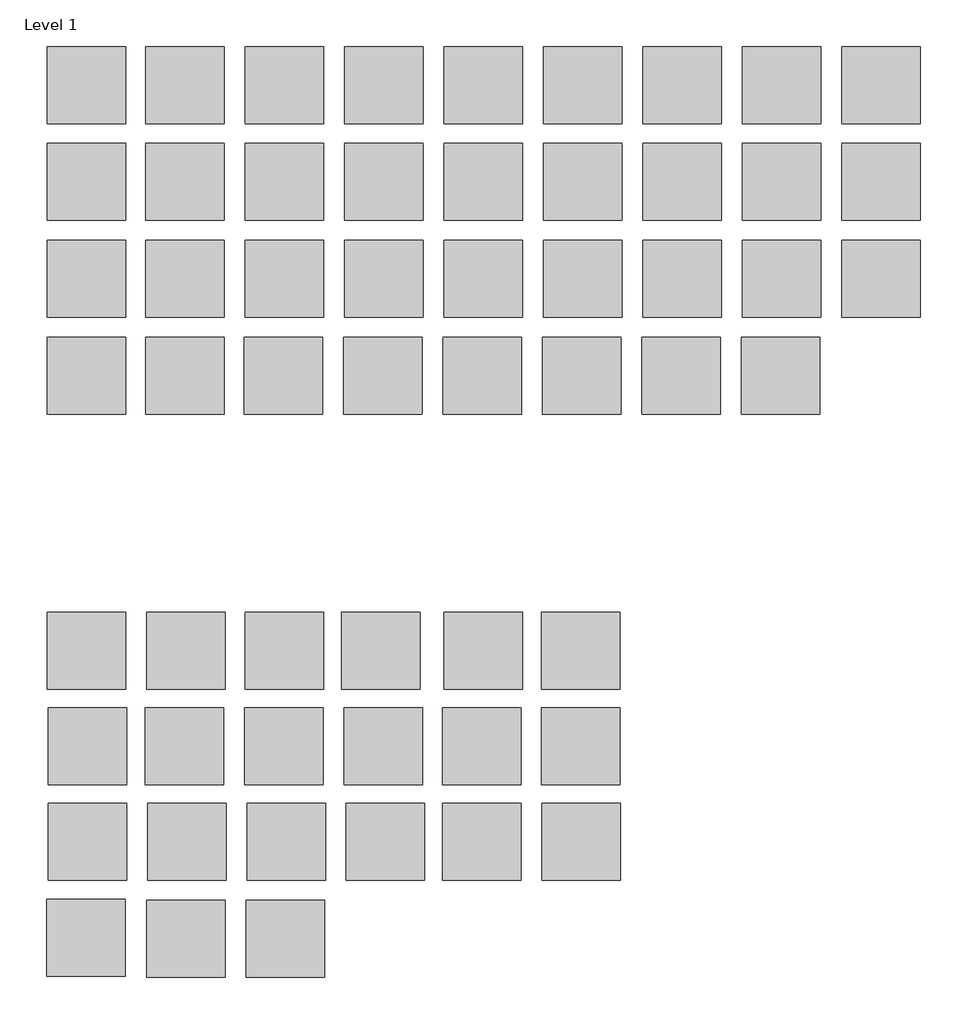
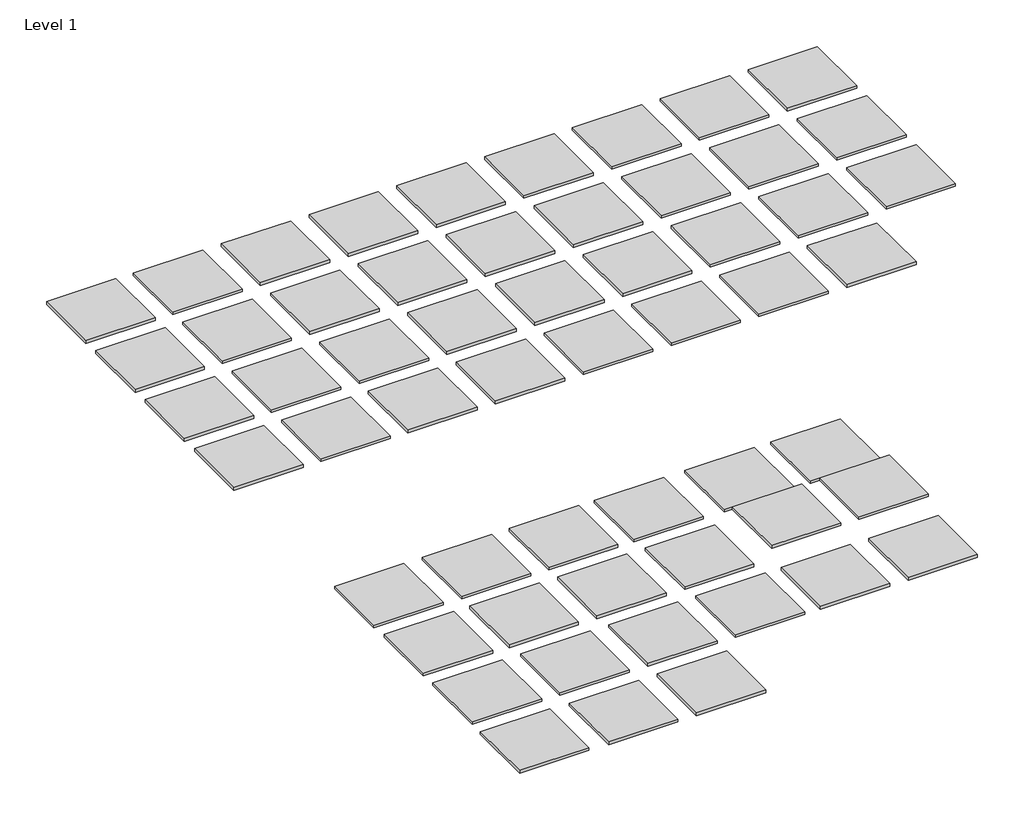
# One storey: 56 proxies.
"""IFC4 building model written with IfcOpenShell, lengths in millimetres."""

from ifc_helpers import new_model, si_unit, origin, place, context, project, spatial, transform, mapped, element, save
from components import materialsample_type_1_bd7977d1

model = new_model("IFC4")

# Units and contexts
model_context = context("Model", 3, world=origin())
ifc_project = project(units=[si_unit("LENGTHUNIT", "METRE", prefix="MILLI")], contexts=[model_context])

# Site, building, storey
site = spatial("IfcSite", under=ifc_project)
building = spatial("IfcBuilding", under=site)
storey = spatial("IfcBuildingStorey", under=building, Name="Level 1", Elevation=0.0)

# Proxies
placement = place(None, origin())
materialsample_type_1_shape = materialsample_type_1_bd7977d1(model_context)
element("IfcBuildingElementProxy", 1, Name="MaterialSample : Type 1", ObjectType="MaterialSample : Type 1", at=placement, inside=storey, context=model_context, shape_type="MappedRepresentation", body=[
    mapped(materialsample_type_1_shape, transform((0.0, -21031.2, 0.0), x_axis=(1.0, 0.0, 0.0), y_axis=(0.0, 1.0, 0.0), z_axis=(0.0, 0.0, 1.0))),
])
element("IfcBuildingElementProxy", 2, Name="MaterialSample : Type 1", ObjectType="MaterialSample : Type 1", at=placement, inside=storey, context=model_context, shape_type="MappedRepresentation", body=[
    mapped(materialsample_type_1_shape, transform((754.3025665, -21031.2, 0.0), x_axis=(1.0, 0.0, 0.0), y_axis=(0.0, 1.0, 0.0), z_axis=(0.0, 0.0, 1.0))),
])
element("IfcBuildingElementProxy", 3, Name="MaterialSample : Type 1", ObjectType="MaterialSample : Type 1", at=placement, inside=storey, context=model_context, shape_type="MappedRepresentation", body=[
    mapped(materialsample_type_1_shape, transform((1516.3025665, -21031.2, 0.0), x_axis=(1.0, 0.0, 0.0), y_axis=(0.0, 1.0, 0.0), z_axis=(0.0, 0.0, 1.0))),
])
element("IfcBuildingElementProxy", 4, Name="MaterialSample : Type 1", ObjectType="MaterialSample : Type 1", at=placement, inside=storey, context=model_context, shape_type="MappedRepresentation", body=[
    mapped(materialsample_type_1_shape, transform((2278.3025665, -21031.2, 0.0), x_axis=(1.0, 0.0, 0.0), y_axis=(0.0, 1.0, 0.0), z_axis=(0.0, 0.0, 1.0))),
])
element("IfcBuildingElementProxy", 5, Name="MaterialSample : Type 1", ObjectType="MaterialSample : Type 1", at=placement, inside=storey, context=model_context, shape_type="MappedRepresentation", body=[
    mapped(materialsample_type_1_shape, transform((3040.3025665, -21031.2, 0.0), x_axis=(1.0, 0.0, 0.0), y_axis=(0.0, 1.0, 0.0), z_axis=(0.0, 0.0, 1.0))),
])
element("IfcBuildingElementProxy", 6, Name="MaterialSample : Type 1", ObjectType="MaterialSample : Type 1", at=placement, inside=storey, context=model_context, shape_type="MappedRepresentation", body=[
    mapped(materialsample_type_1_shape, transform((3802.3025665, -21031.2, 0.0), x_axis=(1.0, 0.0, 0.0), y_axis=(0.0, 1.0, 0.0), z_axis=(0.0, 0.0, 1.0))),
])
element("IfcBuildingElementProxy", 7, Name="MaterialSample : Type 1", ObjectType="MaterialSample : Type 1", at=placement, inside=storey, context=model_context, shape_type="MappedRepresentation", body=[
    mapped(materialsample_type_1_shape, transform((4564.3025665, -21031.2, 0.0), x_axis=(1.0, 0.0, 0.0), y_axis=(0.0, 1.0, 0.0), z_axis=(0.0, 0.0, 1.0))),
])
element("IfcBuildingElementProxy", 8, Name="MaterialSample : Type 1", ObjectType="MaterialSample : Type 1", at=placement, inside=storey, context=model_context, shape_type="MappedRepresentation", body=[
    mapped(materialsample_type_1_shape, transform((5326.3025665, -21031.2, 0.0), x_axis=(1.0, 0.0, 0.0), y_axis=(0.0, 1.0, 0.0), z_axis=(0.0, 0.0, 1.0))),
])
element("IfcBuildingElementProxy", 9, Name="MaterialSample : Type 1", ObjectType="MaterialSample : Type 1", at=placement, inside=storey, context=model_context, shape_type="MappedRepresentation", body=[
    mapped(materialsample_type_1_shape, transform((6088.3025665, -21031.2, 0.0), x_axis=(1.0, 0.0, 0.0), y_axis=(0.0, 1.0, 0.0), z_axis=(0.0, 0.0, 1.0))),
])
element("IfcBuildingElementProxy", 10, Name="MaterialSample : Type 1", ObjectType="MaterialSample : Type 1", at=placement, inside=storey, context=model_context, shape_type="MappedRepresentation", body=[
    mapped(materialsample_type_1_shape, transform((0.0, -21773.1430797, 0.0), x_axis=(1.0, 0.0, 0.0), y_axis=(0.0, 1.0, 0.0), z_axis=(0.0, 0.0, 1.0))),
])
element("IfcBuildingElementProxy", 11, Name="MaterialSample : Type 1", ObjectType="MaterialSample : Type 1", at=placement, inside=storey, context=model_context, shape_type="MappedRepresentation", body=[
    mapped(materialsample_type_1_shape, transform((754.3025665, -21773.1430797, 0.0), x_axis=(1.0, 0.0, 0.0), y_axis=(0.0, 1.0, 0.0), z_axis=(0.0, 0.0, 1.0))),
])
element("IfcBuildingElementProxy", 12, Name="MaterialSample : Type 1", ObjectType="MaterialSample : Type 1", at=placement, inside=storey, context=model_context, shape_type="MappedRepresentation", body=[
    mapped(materialsample_type_1_shape, transform((1516.3025665, -21773.1430797, 0.0), x_axis=(1.0, 0.0, 0.0), y_axis=(0.0, 1.0, 0.0), z_axis=(0.0, 0.0, 1.0))),
])
element("IfcBuildingElementProxy", 13, Name="MaterialSample : Type 1", ObjectType="MaterialSample : Type 1", at=placement, inside=storey, context=model_context, shape_type="MappedRepresentation", body=[
    mapped(materialsample_type_1_shape, transform((2278.3025665, -21773.1430797, 0.0), x_axis=(1.0, 0.0, 0.0), y_axis=(0.0, 1.0, 0.0), z_axis=(0.0, 0.0, 1.0))),
])
element("IfcBuildingElementProxy", 14, Name="MaterialSample : Type 1", ObjectType="MaterialSample : Type 1", at=placement, inside=storey, context=model_context, shape_type="MappedRepresentation", body=[
    mapped(materialsample_type_1_shape, transform((3040.3025665, -21773.1430797, 0.0), x_axis=(1.0, 0.0, 0.0), y_axis=(0.0, 1.0, 0.0), z_axis=(0.0, 0.0, 1.0))),
])
element("IfcBuildingElementProxy", 15, Name="MaterialSample : Type 1", ObjectType="MaterialSample : Type 1", at=placement, inside=storey, context=model_context, shape_type="MappedRepresentation", body=[
    mapped(materialsample_type_1_shape, transform((3802.3025665, -21773.1430797, 0.0), x_axis=(1.0, 0.0, 0.0), y_axis=(0.0, 1.0, 0.0), z_axis=(0.0, 0.0, 1.0))),
])
element("IfcBuildingElementProxy", 16, Name="MaterialSample : Type 1", ObjectType="MaterialSample : Type 1", at=placement, inside=storey, context=model_context, shape_type="MappedRepresentation", body=[
    mapped(materialsample_type_1_shape, transform((4564.3025665, -21773.1430797, 0.0), x_axis=(1.0, 0.0, 0.0), y_axis=(0.0, 1.0, 0.0), z_axis=(0.0, 0.0, 1.0))),
])
element("IfcBuildingElementProxy", 17, Name="MaterialSample : Type 1", ObjectType="MaterialSample : Type 1", at=placement, inside=storey, context=model_context, shape_type="MappedRepresentation", body=[
    mapped(materialsample_type_1_shape, transform((5326.3025665, -21773.1430797, 0.0), x_axis=(1.0, 0.0, 0.0), y_axis=(0.0, 1.0, 0.0), z_axis=(0.0, 0.0, 1.0))),
])
element("IfcBuildingElementProxy", 18, Name="MaterialSample : Type 1", ObjectType="MaterialSample : Type 1", at=placement, inside=storey, context=model_context, shape_type="MappedRepresentation", body=[
    mapped(materialsample_type_1_shape, transform((6088.3025665, -21773.1430797, 0.0), x_axis=(1.0, 0.0, 0.0), y_axis=(0.0, 1.0, 0.0), z_axis=(0.0, 0.0, 1.0))),
])
element("IfcBuildingElementProxy", 19, Name="MaterialSample : Type 1", ObjectType="MaterialSample : Type 1", at=placement, inside=storey, context=model_context, shape_type="MappedRepresentation", body=[
    mapped(materialsample_type_1_shape, transform((0.0, -22515.0861593, 0.0), x_axis=(1.0, 0.0, 0.0), y_axis=(0.0, 1.0, 0.0), z_axis=(0.0, 0.0, 1.0))),
])
element("IfcBuildingElementProxy", 20, Name="MaterialSample : Type 1", ObjectType="MaterialSample : Type 1", at=placement, inside=storey, context=model_context, shape_type="MappedRepresentation", body=[
    mapped(materialsample_type_1_shape, transform((754.3025665, -22515.0861593, 0.0), x_axis=(1.0, 0.0, 0.0), y_axis=(0.0, 1.0, 0.0), z_axis=(0.0, 0.0, 1.0))),
])
element("IfcBuildingElementProxy", 21, Name="MaterialSample : Type 1", ObjectType="MaterialSample : Type 1", at=placement, inside=storey, context=model_context, shape_type="MappedRepresentation", body=[
    mapped(materialsample_type_1_shape, transform((2278.3025665, -22515.0861593, 0.0), x_axis=(1.0, 0.0, 0.0), y_axis=(0.0, 1.0, 0.0), z_axis=(0.0, 0.0, 1.0))),
])
element("IfcBuildingElementProxy", 22, Name="MaterialSample : Type 1", ObjectType="MaterialSample : Type 1", at=placement, inside=storey, context=model_context, shape_type="MappedRepresentation", body=[
    mapped(materialsample_type_1_shape, transform((3040.3025665, -22515.0861593, 0.0), x_axis=(1.0, 0.0, 0.0), y_axis=(0.0, 1.0, 0.0), z_axis=(0.0, 0.0, 1.0))),
])
element("IfcBuildingElementProxy", 23, Name="MaterialSample : Type 1", ObjectType="MaterialSample : Type 1", at=placement, inside=storey, context=model_context, shape_type="MappedRepresentation", body=[
    mapped(materialsample_type_1_shape, transform((3802.3025665, -22515.0861593, 0.0), x_axis=(1.0, 0.0, 0.0), y_axis=(0.0, 1.0, 0.0), z_axis=(0.0, 0.0, 1.0))),
])
element("IfcBuildingElementProxy", 24, Name="MaterialSample : Type 1", ObjectType="MaterialSample : Type 1", at=placement, inside=storey, context=model_context, shape_type="MappedRepresentation", body=[
    mapped(materialsample_type_1_shape, transform((4564.3025665, -22515.0861593, 0.0), x_axis=(1.0, 0.0, 0.0), y_axis=(0.0, 1.0, 0.0), z_axis=(0.0, 0.0, 1.0))),
])
element("IfcBuildingElementProxy", 25, Name="MaterialSample : Type 1", ObjectType="MaterialSample : Type 1", at=placement, inside=storey, context=model_context, shape_type="MappedRepresentation", body=[
    mapped(materialsample_type_1_shape, transform((5326.3025665, -22515.0861593, 0.0), x_axis=(1.0, 0.0, 0.0), y_axis=(0.0, 1.0, 0.0), z_axis=(0.0, 0.0, 1.0))),
])
element("IfcBuildingElementProxy", 26, Name="MaterialSample : Type 1", ObjectType="MaterialSample : Type 1", at=placement, inside=storey, context=model_context, shape_type="MappedRepresentation", body=[
    mapped(materialsample_type_1_shape, transform((6088.3025665, -22515.0861593, 0.0), x_axis=(1.0, 0.0, 0.0), y_axis=(0.0, 1.0, 0.0), z_axis=(0.0, 0.0, 1.0))),
])
element("IfcBuildingElementProxy", 27, Name="MaterialSample : Type 1", ObjectType="MaterialSample : Type 1", at=placement, inside=storey, context=model_context, shape_type="MappedRepresentation", body=[
    mapped(materialsample_type_1_shape, transform((0.0, -23257.029239, 0.0), x_axis=(1.0, 0.0, 0.0), y_axis=(0.0, 1.0, 0.0), z_axis=(0.0, 0.0, 1.0))),
])
element("IfcBuildingElementProxy", 28, Name="MaterialSample : Type 1", ObjectType="MaterialSample : Type 1", at=placement, inside=storey, context=model_context, shape_type="MappedRepresentation", body=[
    mapped(materialsample_type_1_shape, transform((754.3025665, -23257.029239, 0.0), x_axis=(1.0, 0.0, 0.0), y_axis=(0.0, 1.0, 0.0), z_axis=(0.0, 0.0, 1.0))),
])
element("IfcBuildingElementProxy", 29, Name="MaterialSample : Type 1", ObjectType="MaterialSample : Type 1", at=placement, inside=storey, context=model_context, shape_type="MappedRepresentation", body=[
    mapped(materialsample_type_1_shape, transform((1508.6051331, -23257.029239, 0.0), x_axis=(1.0, 0.0, 0.0), y_axis=(0.0, 1.0, 0.0), z_axis=(0.0, 0.0, 1.0))),
])
element("IfcBuildingElementProxy", 30, Name="MaterialSample : Type 1", ObjectType="MaterialSample : Type 1", at=placement, inside=storey, context=model_context, shape_type="MappedRepresentation", body=[
    mapped(materialsample_type_1_shape, transform((2270.6051331, -23257.029239, 0.0), x_axis=(1.0, 0.0, 0.0), y_axis=(0.0, 1.0, 0.0), z_axis=(0.0, 0.0, 1.0))),
])
element("IfcBuildingElementProxy", 31, Name="MaterialSample : Type 1", ObjectType="MaterialSample : Type 1", at=placement, inside=storey, context=model_context, shape_type="MappedRepresentation", body=[
    mapped(materialsample_type_1_shape, transform((3032.6051331, -23257.029239, 0.0), x_axis=(1.0, 0.0, 0.0), y_axis=(0.0, 1.0, 0.0), z_axis=(0.0, 0.0, 1.0))),
])
element("IfcBuildingElementProxy", 32, Name="MaterialSample : Type 1", ObjectType="MaterialSample : Type 1", at=placement, inside=storey, context=model_context, shape_type="MappedRepresentation", body=[
    mapped(materialsample_type_1_shape, transform((3794.6051331, -23257.029239, 0.0), x_axis=(1.0, 0.0, 0.0), y_axis=(0.0, 1.0, 0.0), z_axis=(0.0, 0.0, 1.0))),
])
element("IfcBuildingElementProxy", 33, Name="MaterialSample : Type 1", ObjectType="MaterialSample : Type 1", at=placement, inside=storey, context=model_context, shape_type="MappedRepresentation", body=[
    mapped(materialsample_type_1_shape, transform((4556.6051331, -23257.029239, 0.0), x_axis=(1.0, 0.0, 0.0), y_axis=(0.0, 1.0, 0.0), z_axis=(0.0, 0.0, 1.0))),
])
element("IfcBuildingElementProxy", 34, Name="MaterialSample : Type 1", ObjectType="MaterialSample : Type 1", at=placement, inside=storey, context=model_context, shape_type="MappedRepresentation", body=[
    mapped(materialsample_type_1_shape, transform((5318.6051331, -23257.029239, 0.0), x_axis=(1.0, 0.0, 0.0), y_axis=(0.0, 1.0, 0.0), z_axis=(0.0, 0.0, 1.0))),
])
element("IfcBuildingElementProxy", 35, Name="MaterialSample : Type 1", ObjectType="MaterialSample : Type 1", at=placement, inside=storey, context=model_context, shape_type="MappedRepresentation", body=[
    mapped(materialsample_type_1_shape, transform((0.0, -25361.2977703, 12.7), x_axis=(1.0, 0.0, 0.0), y_axis=(0.0, 1.0, 0.0), z_axis=(0.0, 0.0, 1.0))),
])
element("IfcBuildingElementProxy", 36, Name="MaterialSample : Type 1", ObjectType="MaterialSample : Type 1", at=placement, inside=storey, context=model_context, shape_type="MappedRepresentation", body=[
    mapped(materialsample_type_1_shape, transform((2255.2102662, -25361.2977703, 12.7), x_axis=(1.0, 0.0, 0.0), y_axis=(0.0, 1.0, 0.0), z_axis=(0.0, 0.0, 1.0))),
])
element("IfcBuildingElementProxy", 37, Name="MaterialSample : Type 1", ObjectType="MaterialSample : Type 1", at=placement, inside=storey, context=model_context, shape_type="MappedRepresentation", body=[
    mapped(materialsample_type_1_shape, transform((3786.9076996, -25361.2977703, 12.7), x_axis=(1.0, 0.0, 0.0), y_axis=(0.0, 1.0, 0.0), z_axis=(0.0, 0.0, 1.0))),
])
element("IfcBuildingElementProxy", 38, Name="MaterialSample : Type 1", ObjectType="MaterialSample : Type 1", at=placement, inside=storey, context=model_context, shape_type="MappedRepresentation", body=[
    mapped(materialsample_type_1_shape, transform((750.4538498, -26093.9663016, 12.7), x_axis=(1.0, 0.0, 0.0), y_axis=(0.0, 1.0, 0.0), z_axis=(0.0, 0.0, 1.0))),
])
element("IfcBuildingElementProxy", 39, Name="MaterialSample : Type 1", ObjectType="MaterialSample : Type 1", at=placement, inside=storey, context=model_context, shape_type="MappedRepresentation", body=[
    mapped(materialsample_type_1_shape, transform((1512.4538498, -26093.9663016, 12.7), x_axis=(1.0, 0.0, 0.0), y_axis=(0.0, 1.0, 0.0), z_axis=(0.0, 0.0, 1.0))),
])
element("IfcBuildingElementProxy", 40, Name="MaterialSample : Type 1", ObjectType="MaterialSample : Type 1", at=placement, inside=storey, context=model_context, shape_type="MappedRepresentation", body=[
    mapped(materialsample_type_1_shape, transform((2274.4538498, -26093.9663016, 12.7), x_axis=(1.0, 0.0, 0.0), y_axis=(0.0, 1.0, 0.0), z_axis=(0.0, 0.0, 1.0))),
])
element("IfcBuildingElementProxy", 41, Name="MaterialSample : Type 1", ObjectType="MaterialSample : Type 1", at=placement, inside=storey, context=model_context, shape_type="MappedRepresentation", body=[
    mapped(materialsample_type_1_shape, transform((3028.7564164, -26093.9663016, 127.0), x_axis=(1.0, 0.0, 0.0), y_axis=(0.0, 1.0, 0.0), z_axis=(0.0, 0.0, 1.0))),
])
element("IfcBuildingElementProxy", 42, Name="MaterialSample : Type 1", ObjectType="MaterialSample : Type 1", at=placement, inside=storey, context=model_context, shape_type="MappedRepresentation", body=[
    mapped(materialsample_type_1_shape, transform((7.6974335, -26826.6348329, 12.7), x_axis=(1.0, 0.0, 0.0), y_axis=(0.0, 1.0, 0.0), z_axis=(0.0, 0.0, 1.0))),
])
element("IfcBuildingElementProxy", 43, Name="MaterialSample : Type 1", ObjectType="MaterialSample : Type 1", at=placement, inside=storey, context=model_context, shape_type="MappedRepresentation", body=[
    mapped(materialsample_type_1_shape, transform((769.6974335, -26826.6348329, 12.7), x_axis=(1.0, 0.0, 0.0), y_axis=(0.0, 1.0, 0.0), z_axis=(0.0, 0.0, 1.0))),
])
element("IfcBuildingElementProxy", 44, Name="MaterialSample : Type 1", ObjectType="MaterialSample : Type 1", at=placement, inside=storey, context=model_context, shape_type="MappedRepresentation", body=[
    mapped(materialsample_type_1_shape, transform((1531.6974335, -26826.6348329, 12.7), x_axis=(1.0, 0.0, 0.0), y_axis=(0.0, 1.0, 0.0), z_axis=(0.0, 0.0, 1.0))),
])
element("IfcBuildingElementProxy", 45, Name="MaterialSample : Type 1", ObjectType="MaterialSample : Type 1", at=placement, inside=storey, context=model_context, shape_type="MappedRepresentation", body=[
    mapped(materialsample_type_1_shape, transform((3028.7564164, -26826.6348329, 12.7), x_axis=(1.0, 0.0, 0.0), y_axis=(0.0, 1.0, 0.0), z_axis=(0.0, 0.0, 1.0))),
])
element("IfcBuildingElementProxy", 46, Name="MaterialSample : Type 1", ObjectType="MaterialSample : Type 1", at=placement, inside=storey, context=model_context, shape_type="MappedRepresentation", body=[
    mapped(materialsample_type_1_shape, transform((3790.7564164, -26826.6348329, 12.7), x_axis=(1.0, 0.0, 0.0), y_axis=(0.0, 1.0, 0.0), z_axis=(0.0, 0.0, 1.0))),
])
element("IfcBuildingElementProxy", 47, Name="MaterialSample : Type 1", ObjectType="MaterialSample : Type 1", at=placement, inside=storey, context=model_context, shape_type="MappedRepresentation", body=[
    mapped(materialsample_type_1_shape, transform((762.0, -27570.0857362, 12.7), x_axis=(1.0, 0.0, 0.0), y_axis=(0.0, 1.0, 0.0), z_axis=(0.0, 0.0, 1.0))),
])
element("IfcBuildingElementProxy", 48, Name="MaterialSample : Type 1", ObjectType="MaterialSample : Type 1", at=placement, inside=storey, context=model_context, shape_type="MappedRepresentation", body=[
    mapped(materialsample_type_1_shape, transform((1524.0, -27570.0857362, 12.7), x_axis=(1.0, 0.0, 0.0), y_axis=(0.0, 1.0, 0.0), z_axis=(0.0, 0.0, 1.0))),
])
element("IfcBuildingElementProxy", 49, Name="MaterialSample : Type 1", ObjectType="MaterialSample : Type 1", at=placement, inside=storey, context=model_context, shape_type="MappedRepresentation", body=[
    mapped(materialsample_type_1_shape, transform((762.0, -25361.2977703, 12.7), x_axis=(1.0, 0.0, 0.0), y_axis=(0.0, 1.0, 0.0), z_axis=(0.0, 0.0, 1.0))),
])
element("IfcBuildingElementProxy", 50, Name="MaterialSample : Type 1", ObjectType="MaterialSample : Type 1", at=placement, inside=storey, context=model_context, shape_type="MappedRepresentation", body=[
    mapped(materialsample_type_1_shape, transform((1516.3025665, -25361.2977703, 12.7), x_axis=(1.0, 0.0, 0.0), y_axis=(0.0, 1.0, 0.0), z_axis=(0.0, 0.0, 1.0))),
])
element("IfcBuildingElementProxy", 51, Name="MaterialSample : Type 1", ObjectType="MaterialSample : Type 1", at=placement, inside=storey, context=model_context, shape_type="MappedRepresentation", body=[
    mapped(materialsample_type_1_shape, transform((3040.3025665, -25361.2977703, 12.7), x_axis=(1.0, 0.0, 0.0), y_axis=(0.0, 1.0, 0.0), z_axis=(0.0, 0.0, 1.0))),
])
element("IfcBuildingElementProxy", 52, Name="MaterialSample : Type 1", ObjectType="MaterialSample : Type 1", at=placement, inside=storey, context=model_context, shape_type="MappedRepresentation", body=[
    mapped(materialsample_type_1_shape, transform((7.6974335, -26093.9663016, 12.7), x_axis=(1.0, 0.0, 0.0), y_axis=(0.0, 1.0, 0.0), z_axis=(0.0, 0.0, 1.0))),
])
element("IfcBuildingElementProxy", 53, Name="MaterialSample : Type 1", ObjectType="MaterialSample : Type 1", at=placement, inside=storey, context=model_context, shape_type="MappedRepresentation", body=[
    mapped(materialsample_type_1_shape, transform((3786.9076996, -26093.9663016, 127.0), x_axis=(1.0, 0.0, 0.0), y_axis=(0.0, 1.0, 0.0), z_axis=(0.0, 0.0, 1.0))),
])
element("IfcBuildingElementProxy", 54, Name="MaterialSample : Type 1", ObjectType="MaterialSample : Type 1", at=placement, inside=storey, context=model_context, shape_type="MappedRepresentation", body=[
    mapped(materialsample_type_1_shape, transform((2289.8487167, -26826.6348329, 12.7), x_axis=(1.0, 0.0, 0.0), y_axis=(0.0, 1.0, 0.0), z_axis=(0.0, 0.0, 1.0))),
])
element("IfcBuildingElementProxy", 55, Name="MaterialSample : Type 1", ObjectType="MaterialSample : Type 1", at=placement, inside=storey, context=model_context, shape_type="MappedRepresentation", body=[
    mapped(materialsample_type_1_shape, transform((-3.8487167, -27559.3033642, 12.7), x_axis=(1.0, 0.0, 0.0), y_axis=(0.0, 1.0, 0.0), z_axis=(0.0, 0.0, 1.0))),
])
element("IfcBuildingElementProxy", 56, Name="MaterialSample : Type 1", ObjectType="MaterialSample : Type 1", at=placement, inside=storey, context=model_context, shape_type="MappedRepresentation", body=[
    mapped(materialsample_type_1_shape, transform((1516.3025665, -22515.0861593, 0.0), x_axis=(1.0, 0.0, 0.0), y_axis=(0.0, 1.0, 0.0), z_axis=(0.0, 0.0, 1.0))),
])

save(model, "model.ifc")
